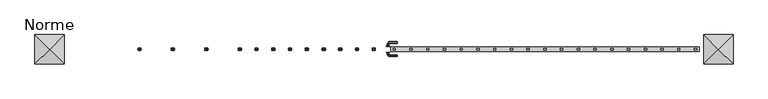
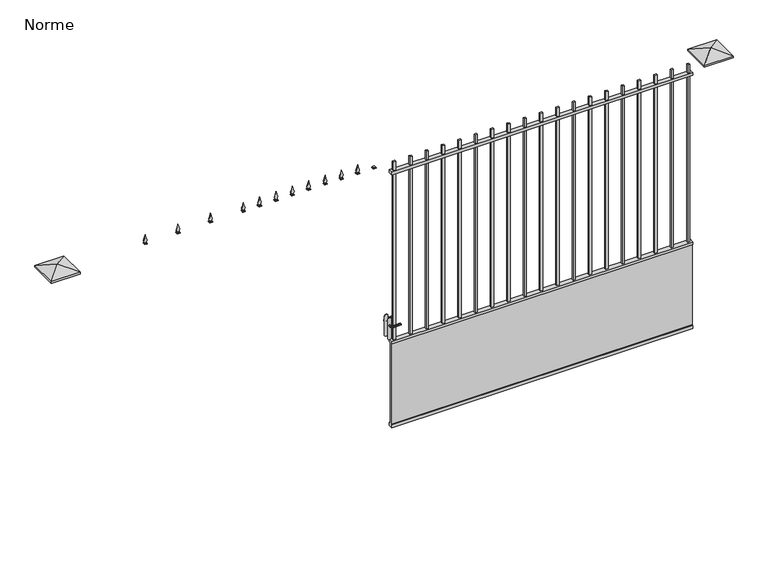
"""IFC4 building model written with IfcOpenShell, lengths in millimetres: geographic element geometry, Portail métal - Double : Norme."""

from ifc_helpers import new_model, si_unit, point, frame, frame_2d, origin, place, context, project, spatial, polyline, circle_curve, trimmed, segment, composite_curve, outline, extrude, faceted_brep, source, transform, mapped, element, save


def norme_461e92e3(model_context):
    return source(origin(), model_context, "Body", "SolidModel", [
        faceted_brep([(-130.6068511, 9.0, 2490.0), (-130.6068511, -9.0, 2490.0), (-112.6068511, -9.0, 2490.0), (-112.6068511, 9.0, 2490.0), (-133.6068511, 12.0, 2485.0), (-109.6068511, 12.0, 2485.0), (-109.6068511, -12.0, 2485.0), (-133.6068511, -12.0, 2485.0)], [[[0, 1, 2, 3]], [[4, 5, 6, 7]], [[4, 7, 1, 0]], [[7, 6, 2, 1]], [[6, 5, 3, 2]], [[5, 4, 0, 3]]]),
        extrude(outline(polyline([(-109.6068511, 12.0), (-109.6068511, -12.0), (-133.6068511, -12.0), (-133.6068511, 12.0), (-109.6068511, 12.0)])), frame((0.0, 0.0, 2480.0), z_axis=(0.0, 0.0, 1.0), x_axis=(1.0, 0.0, 0.0)), (0.0, 0.0, 1.0), 5.0),
        extrude(outline(composite_curve([segment(trimmed(circle_curve(frame_2d((2474.9252719, -359.8281669)), 87.884948), [point((2510.0, -279.24574))], [point((2490.0, -273.24574))], True, "CARTESIAN"), True, "CONTINUOUS"), segment(polyline([(2490.0, -273.24574), (2490.0, -255.24574)]), True, "CONTINUOUS"), segment(trimmed(circle_curve(frame_2d((2474.9252719, -168.663313)), 87.884948), [point((2490.0, -255.24574))], [point((2510.0, -249.24574))], True, "CARTESIAN"), True, "CONTINUOUS"), segment(trimmed(circle_curve(frame_2d((2584.2044665, -92.7308515)), 173.2143562), [point((2510.0, -249.24574))], [point((2560.0, -264.24574))], True, "CARTESIAN"), True, "CONTINUOUS"), segment(trimmed(circle_curve(frame_2d((2584.2044665, -435.7606284)), 173.2143562), [point((2560.0, -264.24574))], [point((2510.0, -279.24574))], True, "CARTESIAN"), True, "CONTINUOUS")], self_intersect=False)), frame((0.0, -1.5, 0.0), z_axis=(0.0, 1.0, 0.0), x_axis=(0.0, 0.0, 1.0)), (0.0, 0.0, 1.0), 3.0),
        faceted_brep([(-273.24574, 9.0, 2490.0), (-273.24574, -9.0, 2490.0), (-255.24574, -9.0, 2490.0), (-255.24574, 9.0, 2490.0), (-276.24574, 12.0, 2485.0), (-252.24574, 12.0, 2485.0), (-252.24574, -12.0, 2485.0), (-276.24574, -12.0, 2485.0)], [[[0, 1, 2, 3]], [[4, 5, 6, 7]], [[4, 7, 1, 0]], [[7, 6, 2, 1]], [[6, 5, 3, 2]], [[5, 4, 0, 3]]]),
        extrude(outline(polyline([(-252.24574, 12.0), (-252.24574, -12.0), (-276.24574, -12.0), (-276.24574, 12.0), (-252.24574, 12.0)])), frame((0.0, 0.0, 2480.0), z_axis=(0.0, 0.0, 1.0), x_axis=(1.0, 0.0, 0.0)), (0.0, 0.0, 1.0), 5.0),
        extrude(outline(composite_curve([segment(trimmed(circle_curve(frame_2d((2474.9252719, -502.4670558)), 87.884948), [point((2510.0, -421.8846288))], [point((2490.0, -415.8846288))], True, "CARTESIAN"), True, "CONTINUOUS"), segment(polyline([(2490.0, -415.8846288), (2490.0, -397.8846288)]), True, "CONTINUOUS"), segment(trimmed(circle_curve(frame_2d((2474.9252719, -311.3022019)), 87.884948), [point((2490.0, -397.8846288))], [point((2510.0, -391.8846288))], True, "CARTESIAN"), True, "CONTINUOUS"), segment(trimmed(circle_curve(frame_2d((2584.2044665, -235.3697403)), 173.2143562), [point((2510.0, -391.8846288))], [point((2560.0, -406.8846288))], True, "CARTESIAN"), True, "CONTINUOUS"), segment(trimmed(circle_curve(frame_2d((2584.2044665, -578.3995173)), 173.2143562), [point((2560.0, -406.8846288))], [point((2510.0, -421.8846288))], True, "CARTESIAN"), True, "CONTINUOUS")], self_intersect=False)), frame((0.0, -1.5, 0.0), z_axis=(0.0, 1.0, 0.0), x_axis=(0.0, 0.0, 1.0)), (0.0, 0.0, 1.0), 3.0),
        faceted_brep([(-415.8846288, 9.0, 2490.0), (-415.8846288, -9.0, 2490.0), (-397.8846288, -9.0, 2490.0), (-397.8846288, 9.0, 2490.0), (-418.8846288, 12.0, 2485.0), (-394.8846288, 12.0, 2485.0), (-394.8846288, -12.0, 2485.0), (-418.8846288, -12.0, 2485.0)], [[[0, 1, 2, 3]], [[4, 5, 6, 7]], [[4, 7, 1, 0]], [[7, 6, 2, 1]], [[6, 5, 3, 2]], [[5, 4, 0, 3]]]),
        extrude(outline(polyline([(-394.8846288, 12.0), (-394.8846288, -12.0), (-418.8846288, -12.0), (-418.8846288, 12.0), (-394.8846288, 12.0)])), frame((0.0, 0.0, 2480.0), z_axis=(0.0, 0.0, 1.0), x_axis=(1.0, 0.0, 0.0)), (0.0, 0.0, 1.0), 5.0),
        extrude(outline(composite_curve([segment(trimmed(circle_curve(frame_2d((2474.9252719, -643.1059446)), 87.884948), [point((2510.0, -562.5235177))], [point((2490.0, -556.5235177))], True, "CARTESIAN"), True, "CONTINUOUS"), segment(polyline([(2490.0, -556.5235177), (2490.0, -538.5235177)]), True, "CONTINUOUS"), segment(trimmed(circle_curve(frame_2d((2474.9252719, -451.9410908)), 87.884948), [point((2490.0, -538.5235177))], [point((2510.0, -532.5235177))], True, "CARTESIAN"), True, "CONTINUOUS"), segment(trimmed(circle_curve(frame_2d((2584.2044665, -376.0086292)), 173.2143562), [point((2510.0, -532.5235177))], [point((2560.0, -547.5235177))], True, "CARTESIAN"), True, "CONTINUOUS"), segment(trimmed(circle_curve(frame_2d((2584.2044665, -719.0384062)), 173.2143562), [point((2560.0, -547.5235177))], [point((2510.0, -562.5235177))], True, "CARTESIAN"), True, "CONTINUOUS")], self_intersect=False)), frame((0.0, -1.5, 0.0), z_axis=(0.0, 1.0, 0.0), x_axis=(0.0, 0.0, 1.0)), (0.0, 0.0, 1.0), 3.0),
        faceted_brep([(-556.5235177, 9.0, 2490.0), (-556.5235177, -9.0, 2490.0), (-538.5235177, -9.0, 2490.0), (-538.5235177, 9.0, 2490.0), (-559.5235177, 12.0, 2485.0), (-535.5235177, 12.0, 2485.0), (-535.5235177, -12.0, 2485.0), (-559.5235177, -12.0, 2485.0)], [[[0, 1, 2, 3]], [[4, 5, 6, 7]], [[4, 7, 1, 0]], [[7, 6, 2, 1]], [[6, 5, 3, 2]], [[5, 4, 0, 3]]]),
        extrude(outline(polyline([(-535.5235177, 12.0), (-535.5235177, -12.0), (-559.5235177, -12.0), (-559.5235177, 12.0), (-535.5235177, 12.0)])), frame((0.0, 0.0, 2480.0), z_axis=(0.0, 0.0, 1.0), x_axis=(1.0, 0.0, 0.0)), (0.0, 0.0, 1.0), 5.0),
        extrude(outline(composite_curve([segment(trimmed(circle_curve(frame_2d((2474.9252719, -787.7448335)), 87.884948), [point((2510.0, -707.1624066))], [point((2490.0, -701.1624066))], True, "CARTESIAN"), True, "CONTINUOUS"), segment(polyline([(2490.0, -701.1624066), (2490.0, -683.1624066)]), True, "CONTINUOUS"), segment(trimmed(circle_curve(frame_2d((2474.9252719, -596.5799797)), 87.884948), [point((2490.0, -683.1624066))], [point((2510.0, -677.1624066))], True, "CARTESIAN"), True, "CONTINUOUS"), segment(trimmed(circle_curve(frame_2d((2584.2044665, -520.6475181)), 173.2143562), [point((2510.0, -677.1624066))], [point((2560.0, -692.1624066))], True, "CARTESIAN"), True, "CONTINUOUS"), segment(trimmed(circle_curve(frame_2d((2584.2044665, -863.6772951)), 173.2143562), [point((2560.0, -692.1624066))], [point((2510.0, -707.1624066))], True, "CARTESIAN"), True, "CONTINUOUS")], self_intersect=False)), frame((0.0, -1.5, 0.0), z_axis=(0.0, 1.0, 0.0), x_axis=(0.0, 0.0, 1.0)), (0.0, 0.0, 1.0), 3.0),
        faceted_brep([(-701.1624066, 9.0, 2490.0), (-701.1624066, -9.0, 2490.0), (-683.1624066, -9.0, 2490.0), (-683.1624066, 9.0, 2490.0), (-704.1624066, 12.0, 2485.0), (-680.1624066, 12.0, 2485.0), (-680.1624066, -12.0, 2485.0), (-704.1624066, -12.0, 2485.0)], [[[0, 1, 2, 3]], [[4, 5, 6, 7]], [[4, 7, 1, 0]], [[7, 6, 2, 1]], [[6, 5, 3, 2]], [[5, 4, 0, 3]]]),
        extrude(outline(polyline([(-680.1624066, 12.0), (-680.1624066, -12.0), (-704.1624066, -12.0), (-704.1624066, 12.0), (-680.1624066, 12.0)])), frame((0.0, 0.0, 2480.0), z_axis=(0.0, 0.0, 1.0), x_axis=(1.0, 0.0, 0.0)), (0.0, 0.0, 1.0), 5.0),
        extrude(outline(composite_curve([segment(trimmed(circle_curve(frame_2d((2474.9252719, -930.3837224)), 87.884948), [point((2510.0, -849.8012955))], [point((2490.0, -843.8012955))], True, "CARTESIAN"), True, "CONTINUOUS"), segment(polyline([(2490.0, -843.8012955), (2490.0, -825.8012955)]), True, "CONTINUOUS"), segment(trimmed(circle_curve(frame_2d((2474.9252719, -739.2188686)), 87.884948), [point((2490.0, -825.8012955))], [point((2510.0, -819.8012955))], True, "CARTESIAN"), True, "CONTINUOUS"), segment(trimmed(circle_curve(frame_2d((2584.2044665, -663.286407)), 173.2143562), [point((2510.0, -819.8012955))], [point((2560.0, -834.8012955))], True, "CARTESIAN"), True, "CONTINUOUS"), segment(trimmed(circle_curve(frame_2d((2584.2044665, -1006.316184)), 173.2143562), [point((2560.0, -834.8012955))], [point((2510.0, -849.8012955))], True, "CARTESIAN"), True, "CONTINUOUS")], self_intersect=False)), frame((0.0, -1.5, 0.0), z_axis=(0.0, 1.0, 0.0), x_axis=(0.0, 0.0, 1.0)), (0.0, 0.0, 1.0), 3.0),
        faceted_brep([(-843.8012955, 9.0, 2490.0), (-843.8012955, -9.0, 2490.0), (-825.8012955, -9.0, 2490.0), (-825.8012955, 9.0, 2490.0), (-846.8012955, 12.0, 2485.0), (-822.8012955, 12.0, 2485.0), (-822.8012955, -12.0, 2485.0), (-846.8012955, -12.0, 2485.0)], [[[0, 1, 2, 3]], [[4, 5, 6, 7]], [[4, 7, 1, 0]], [[7, 6, 2, 1]], [[6, 5, 3, 2]], [[5, 4, 0, 3]]]),
        extrude(outline(polyline([(-822.8012955, 12.0), (-822.8012955, -12.0), (-846.8012955, -12.0), (-846.8012955, 12.0), (-822.8012955, 12.0)])), frame((0.0, 0.0, 2480.0), z_axis=(0.0, 0.0, 1.0), x_axis=(1.0, 0.0, 0.0)), (0.0, 0.0, 1.0), 5.0),
        extrude(outline(composite_curve([segment(trimmed(circle_curve(frame_2d((2474.9252719, -1073.0226113)), 87.884948), [point((2510.0, -992.4401844))], [point((2490.0, -986.4401844))], True, "CARTESIAN"), True, "CONTINUOUS"), segment(polyline([(2490.0, -986.4401844), (2490.0, -968.4401844)]), True, "CONTINUOUS"), segment(trimmed(circle_curve(frame_2d((2474.9252719, -881.8577575)), 87.884948), [point((2490.0, -968.4401844))], [point((2510.0, -962.4401844))], True, "CARTESIAN"), True, "CONTINUOUS"), segment(trimmed(circle_curve(frame_2d((2584.2044665, -805.9252959)), 173.2143562), [point((2510.0, -962.4401844))], [point((2560.0, -977.4401844))], True, "CARTESIAN"), True, "CONTINUOUS"), segment(trimmed(circle_curve(frame_2d((2584.2044665, -1148.9550729)), 173.2143562), [point((2560.0, -977.4401844))], [point((2510.0, -992.4401844))], True, "CARTESIAN"), True, "CONTINUOUS")], self_intersect=False)), frame((0.0, -1.5, 0.0), z_axis=(0.0, 1.0, 0.0), x_axis=(0.0, 0.0, 1.0)), (0.0, 0.0, 1.0), 3.0),
        faceted_brep([(-986.4401844, 9.0, 2490.0), (-986.4401844, -9.0, 2490.0), (-968.4401844, -9.0, 2490.0), (-968.4401844, 9.0, 2490.0), (-989.4401844, 12.0, 2485.0), (-965.4401844, 12.0, 2485.0), (-965.4401844, -12.0, 2485.0), (-989.4401844, -12.0, 2485.0)], [[[0, 1, 2, 3]], [[4, 5, 6, 7]], [[4, 7, 1, 0]], [[7, 6, 2, 1]], [[6, 5, 3, 2]], [[5, 4, 0, 3]]]),
        extrude(outline(polyline([(-965.4401844, 12.0), (-965.4401844, -12.0), (-989.4401844, -12.0), (-989.4401844, 12.0), (-965.4401844, 12.0)])), frame((0.0, 0.0, 2480.0), z_axis=(0.0, 0.0, 1.0), x_axis=(1.0, 0.0, 0.0)), (0.0, 0.0, 1.0), 5.0),
        extrude(outline(composite_curve([segment(trimmed(circle_curve(frame_2d((2474.9252719, -1215.6615002)), 87.884948), [point((2510.0, -1135.0790733))], [point((2490.0, -1129.0790733))], True, "CARTESIAN"), True, "CONTINUOUS"), segment(polyline([(2490.0, -1129.0790733), (2490.0, -1111.0790733)]), True, "CONTINUOUS"), segment(trimmed(circle_curve(frame_2d((2474.9252719, -1024.4966464)), 87.884948), [point((2490.0, -1111.0790733))], [point((2510.0, -1105.0790733))], True, "CARTESIAN"), True, "CONTINUOUS"), segment(trimmed(circle_curve(frame_2d((2584.2044665, -948.5641848)), 173.2143562), [point((2510.0, -1105.0790733))], [point((2560.0, -1120.0790733))], True, "CARTESIAN"), True, "CONTINUOUS"), segment(trimmed(circle_curve(frame_2d((2584.2044665, -1291.5939618)), 173.2143562), [point((2560.0, -1120.0790733))], [point((2510.0, -1135.0790733))], True, "CARTESIAN"), True, "CONTINUOUS")], self_intersect=False)), frame((0.0, -1.5, 0.0), z_axis=(0.0, 1.0, 0.0), x_axis=(0.0, 0.0, 1.0)), (0.0, 0.0, 1.0), 3.0),
        faceted_brep([(-1129.0790733, 9.0, 2490.0), (-1129.0790733, -9.0, 2490.0), (-1111.0790733, -9.0, 2490.0), (-1111.0790733, 9.0, 2490.0), (-1132.0790733, 12.0, 2485.0), (-1108.0790733, 12.0, 2485.0), (-1108.0790733, -12.0, 2485.0), (-1132.0790733, -12.0, 2485.0)], [[[0, 1, 2, 3]], [[4, 5, 6, 7]], [[4, 7, 1, 0]], [[7, 6, 2, 1]], [[6, 5, 3, 2]], [[5, 4, 0, 3]]]),
        extrude(outline(polyline([(-1108.0790733, 12.0), (-1108.0790733, -12.0), (-1132.0790733, -12.0), (-1132.0790733, 12.0), (-1108.0790733, 12.0)])), frame((0.0, 0.0, 2480.0), z_axis=(0.0, 0.0, 1.0), x_axis=(1.0, 0.0, 0.0)), (0.0, 0.0, 1.0), 5.0),
        extrude(outline(composite_curve([segment(trimmed(circle_curve(frame_2d((2474.9252719, -1358.3003891)), 87.884948), [point((2510.0, -1277.7179622))], [point((2490.0, -1271.7179622))], True, "CARTESIAN"), True, "CONTINUOUS"), segment(polyline([(2490.0, -1271.7179622), (2490.0, -1253.7179622)]), True, "CONTINUOUS"), segment(trimmed(circle_curve(frame_2d((2474.9252719, -1167.1355352)), 87.884948), [point((2490.0, -1253.7179622))], [point((2510.0, -1247.7179622))], True, "CARTESIAN"), True, "CONTINUOUS"), segment(trimmed(circle_curve(frame_2d((2584.2044665, -1091.2030737)), 173.2143562), [point((2510.0, -1247.7179622))], [point((2560.0, -1262.7179622))], True, "CARTESIAN"), True, "CONTINUOUS"), segment(trimmed(circle_curve(frame_2d((2584.2044665, -1434.2328507)), 173.2143562), [point((2560.0, -1262.7179622))], [point((2510.0, -1277.7179622))], True, "CARTESIAN"), True, "CONTINUOUS")], self_intersect=False)), frame((0.0, -1.5, 0.0), z_axis=(0.0, 1.0, 0.0), x_axis=(0.0, 0.0, 1.0)), (0.0, 0.0, 1.0), 3.0),
        faceted_brep([(-1271.7179622, 9.0, 2490.0), (-1271.7179622, -9.0, 2490.0), (-1253.7179622, -9.0, 2490.0), (-1253.7179622, 9.0, 2490.0), (-1274.7179622, 12.0, 2485.0), (-1250.7179622, 12.0, 2485.0), (-1250.7179622, -12.0, 2485.0), (-1274.7179622, -12.0, 2485.0)], [[[0, 1, 2, 3]], [[4, 5, 6, 7]], [[4, 7, 1, 0]], [[7, 6, 2, 1]], [[6, 5, 3, 2]], [[5, 4, 0, 3]]]),
        extrude(outline(polyline([(-1250.7179622, 12.0), (-1250.7179622, -12.0), (-1274.7179622, -12.0), (-1274.7179622, 12.0), (-1250.7179622, 12.0)])), frame((0.0, 0.0, 2480.0), z_axis=(0.0, 0.0, 1.0), x_axis=(1.0, 0.0, 0.0)), (0.0, 0.0, 1.0), 5.0),
        extrude(outline(composite_curve([segment(trimmed(circle_curve(frame_2d((2474.9252719, -1643.5781669)), 87.884948), [point((2510.0, -1562.99574))], [point((2490.0, -1556.99574))], True, "CARTESIAN"), True, "CONTINUOUS"), segment(polyline([(2490.0, -1556.99574), (2490.0, -1538.99574)]), True, "CONTINUOUS"), segment(trimmed(circle_curve(frame_2d((2474.9252719, -1452.413313)), 87.884948), [point((2490.0, -1538.99574))], [point((2510.0, -1532.99574))], True, "CARTESIAN"), True, "CONTINUOUS"), segment(trimmed(circle_curve(frame_2d((2584.2044665, -1376.4808515)), 173.2143562), [point((2510.0, -1532.99574))], [point((2560.0, -1547.99574))], True, "CARTESIAN"), True, "CONTINUOUS"), segment(trimmed(circle_curve(frame_2d((2584.2044665, -1719.5106284)), 173.2143562), [point((2560.0, -1547.99574))], [point((2510.0, -1562.99574))], True, "CARTESIAN"), True, "CONTINUOUS")], self_intersect=False)), frame((0.0, -1.5, 0.0), z_axis=(0.0, 1.0, 0.0), x_axis=(0.0, 0.0, 1.0)), (0.0, 0.0, 1.0), 3.0),
        faceted_brep([(-1556.99574, 9.0, 2490.0), (-1556.99574, -9.0, 2490.0), (-1538.99574, -9.0, 2490.0), (-1538.99574, 9.0, 2490.0), (-1559.99574, 12.0, 2485.0), (-1535.99574, 12.0, 2485.0), (-1535.99574, -12.0, 2485.0), (-1559.99574, -12.0, 2485.0)], [[[0, 1, 2, 3]], [[4, 5, 6, 7]], [[4, 7, 1, 0]], [[7, 6, 2, 1]], [[6, 5, 3, 2]], [[5, 4, 0, 3]]]),
        extrude(outline(polyline([(-1535.99574, 12.0), (-1535.99574, -12.0), (-1559.99574, -12.0), (-1559.99574, 12.0), (-1535.99574, 12.0)])), frame((0.0, 0.0, 2480.0), z_axis=(0.0, 0.0, 1.0), x_axis=(1.0, 0.0, 0.0)), (0.0, 0.0, 1.0), 5.0),
        extrude(outline(composite_curve([segment(trimmed(circle_curve(frame_2d((2474.9252719, -1928.8559446)), 87.884948), [point((2510.0, -1848.2735177))], [point((2490.0, -1842.2735177))], True, "CARTESIAN"), True, "CONTINUOUS"), segment(polyline([(2490.0, -1842.2735177), (2490.0, -1824.2735177)]), True, "CONTINUOUS"), segment(trimmed(circle_curve(frame_2d((2474.9252719, -1737.6910908)), 87.884948), [point((2490.0, -1824.2735177))], [point((2510.0, -1818.2735177))], True, "CARTESIAN"), True, "CONTINUOUS"), segment(trimmed(circle_curve(frame_2d((2584.2044665, -1661.7586292)), 173.2143562), [point((2510.0, -1818.2735177))], [point((2560.0, -1833.2735177))], True, "CARTESIAN"), True, "CONTINUOUS"), segment(trimmed(circle_curve(frame_2d((2584.2044665, -2004.7884062)), 173.2143562), [point((2560.0, -1833.2735177))], [point((2510.0, -1848.2735177))], True, "CARTESIAN"), True, "CONTINUOUS")], self_intersect=False)), frame((0.0, -1.5, 0.0), z_axis=(0.0, 1.0, 0.0), x_axis=(0.0, 0.0, 1.0)), (0.0, 0.0, 1.0), 3.0),
        faceted_brep([(-1842.2735177, 9.0, 2490.0), (-1842.2735177, -9.0, 2490.0), (-1824.2735177, -9.0, 2490.0), (-1824.2735177, 9.0, 2490.0), (-1845.2735177, 12.0, 2485.0), (-1821.2735177, 12.0, 2485.0), (-1821.2735177, -12.0, 2485.0), (-1845.2735177, -12.0, 2485.0)], [[[0, 1, 2, 3]], [[4, 5, 6, 7]], [[4, 7, 1, 0]], [[7, 6, 2, 1]], [[6, 5, 3, 2]], [[5, 4, 0, 3]]]),
        extrude(outline(polyline([(-1821.2735177, 12.0), (-1821.2735177, -12.0), (-1845.2735177, -12.0), (-1845.2735177, 12.0), (-1821.2735177, 12.0)])), frame((0.0, 0.0, 2480.0), z_axis=(0.0, 0.0, 1.0), x_axis=(1.0, 0.0, 0.0)), (0.0, 0.0, 1.0), 5.0),
        extrude(outline(composite_curve([segment(trimmed(circle_curve(frame_2d((2474.9252719, -2214.1337224)), 87.884948), [point((2510.0, -2133.5512955))], [point((2490.0, -2127.5512955))], True, "CARTESIAN"), True, "CONTINUOUS"), segment(polyline([(2490.0, -2127.5512955), (2490.0, -2109.5512955)]), True, "CONTINUOUS"), segment(trimmed(circle_curve(frame_2d((2474.9252719, -2022.9688686)), 87.884948), [point((2490.0, -2109.5512955))], [point((2510.0, -2103.5512955))], True, "CARTESIAN"), True, "CONTINUOUS"), segment(trimmed(circle_curve(frame_2d((2584.2044665, -1947.036407)), 173.2143562), [point((2510.0, -2103.5512955))], [point((2560.0, -2118.5512955))], True, "CARTESIAN"), True, "CONTINUOUS"), segment(trimmed(circle_curve(frame_2d((2584.2044665, -2290.066184)), 173.2143562), [point((2560.0, -2118.5512955))], [point((2510.0, -2133.5512955))], True, "CARTESIAN"), True, "CONTINUOUS")], self_intersect=False)), frame((0.0, -1.5, 0.0), z_axis=(0.0, 1.0, 0.0), x_axis=(0.0, 0.0, 1.0)), (0.0, 0.0, 1.0), 3.0),
        faceted_brep([(-2127.5512955, 9.0, 2490.0), (-2127.5512955, -9.0, 2490.0), (-2109.5512955, -9.0, 2490.0), (-2109.5512955, 9.0, 2490.0), (-2130.5512955, 12.0, 2485.0), (-2106.5512955, 12.0, 2485.0), (-2106.5512955, -12.0, 2485.0), (-2130.5512955, -12.0, 2485.0)], [[[0, 1, 2, 3]], [[4, 5, 6, 7]], [[4, 7, 1, 0]], [[7, 6, 2, 1]], [[6, 5, 3, 2]], [[5, 4, 0, 3]]]),
        extrude(outline(polyline([(-2106.5512955, 12.0), (-2106.5512955, -12.0), (-2130.5512955, -12.0), (-2130.5512955, 12.0), (-2106.5512955, 12.0)])), frame((0.0, 0.0, 2480.0), z_axis=(0.0, 0.0, 1.0), x_axis=(1.0, 0.0, 0.0)), (0.0, 0.0, 1.0), 5.0),
        faceted_brep([(2690.8931489, 125.0, 2500.0), (2940.8931489, 125.0, 2500.0), (2940.8931489, -125.0, 2500.0), (2690.8931489, -125.0, 2500.0), (2690.8931489, 125.0, 2515.0), (2940.8931489, 125.0, 2515.0), (2940.8931489, -125.0, 2515.0), (2690.8931489, -125.0, 2515.0), (2815.8931489, 0.0, 2560.0)], [[[0, 1, 2, 3]], [[0, 4, 5, 1]], [[1, 5, 6, 2]], [[2, 6, 7, 3]], [[3, 7, 4, 0]], [[4, 8, 5]], [[6, 8, 7]], [[7, 8, 4]], [[5, 8, 6]]]),
        faceted_brep([(-2759.1068511, 125.0, 2500.0), (-2759.1068511, -125.0, 2500.0), (-3009.1068511, -125.0, 2500.0), (-3009.1068511, 125.0, 2500.0), (-3009.1068511, 125.0, 2515.0), (-2759.1068511, 125.0, 2515.0), (-3009.1068511, -125.0, 2515.0), (-2759.1068511, -125.0, 2515.0), (-2884.1068511, 0.0, 2560.0)], [[[0, 1, 2, 3]], [[0, 3, 4, 5]], [[3, 2, 6, 4]], [[2, 1, 7, 6]], [[1, 0, 5, 7]], [[5, 4, 8]], [[6, 7, 8]], [[7, 5, 8]], [[4, 6, 8]]]),
        faceted_brep([(5.8931489, 28.0, 1002.9937119), (1.8931489, 28.0, 1007.0), (-4.1068511, 28.0, 1007.0), (-8.1068511, 28.0, 1002.9937119), (-8.1068511, 28.0, 997.0062881), (-4.1068511, 28.0, 993.0), (1.8931489, 28.0, 993.0), (5.8931489, 28.0, 997.0062881), (5.8931489, 45.1005051, 1002.9937119), (1.8931489, 46.7573593, 1007.0), (10.1357896, 55.0, 1007.0), (78.8931489, 55.0, 1007.0), (78.8931489, 61.0, 1007.0), (7.6505083, 61.0, 1007.0), (-4.1068511, 49.2426407, 1007.0), (-8.1068511, 50.8994949, 1002.9937119), (-8.1068511, 50.8994949, 997.0062881), (-4.1068511, 49.2426407, 993.0), (7.6505083, 61.0, 993.0), (78.8931489, 61.0, 993.0), (78.8931489, 55.0, 993.0), (10.1357896, 55.0, 993.0), (1.8931489, 46.7573593, 993.0), (5.8931489, 45.1005051, 997.0062881), (11.7926439, 51.0, 1002.9937119), (5.993654, 65.0, 1002.9937119), (5.993654, 65.0, 997.0062881), (11.7926439, 51.0, 997.0062881), (78.8931489, 51.0, 1002.9937119), (78.8931489, 51.0, 997.0062881), (78.8931489, 65.0, 997.0062881), (78.8931489, 65.0, 1002.9937119)], [[[0, 1, 2, 3, 4, 5, 6, 7]], [[1, 0, 8, 9]], [[2, 1, 9, 10, 11, 12, 13, 14]], [[3, 2, 14, 15]], [[4, 3, 15, 16]], [[5, 4, 16, 17]], [[6, 5, 17, 18, 19, 20, 21, 22]], [[7, 6, 22, 23]], [[0, 7, 23, 8]], [[9, 8, 24, 10]], [[15, 14, 13, 25]], [[16, 15, 25, 26]], [[17, 16, 26, 18]], [[23, 22, 21, 27]], [[8, 23, 27, 24]], [[28, 29, 20, 19, 30, 31, 12, 11]], [[10, 24, 28, 11]], [[25, 13, 12, 31]], [[26, 25, 31, 30]], [[18, 26, 30, 19]], [[27, 21, 20, 29]], [[24, 27, 29, 28]]]),
        faceted_brep([(1.8931489, -28.0, 1007.0), (5.8931489, -28.0, 1002.9937119), (5.8931489, -28.0, 997.0062881), (1.8931489, -28.0, 993.0), (-4.1068511, -28.0, 993.0), (-8.1068511, -28.0, 997.0062881), (-8.1068511, -28.0, 1002.9937119), (-4.1068511, -28.0, 1007.0), (1.8931489, -43.8868977, 1007.0), (5.8931489, -42.2309002, 1002.9937119), (5.8931489, -42.2309002, 997.0062881), (1.8931489, -43.8868977, 993.0), (10.0003203, -52.0, 993.0), (78.8931489, -52.0, 993.0), (78.8931489, -58.0, 993.0), (7.5137536, -58.0, 993.0), (-4.1068511, -46.370894, 993.0), (-8.1068511, -48.0268916, 997.0062881), (-8.1068511, -48.0268916, 1002.9937119), (-4.1068511, -46.370894, 1007.0), (7.5137536, -58.0, 1007.0), (78.8931489, -58.0, 1007.0), (78.8931489, -52.0, 1007.0), (10.0003203, -52.0, 1007.0), (11.6580313, -48.0, 1002.9937119), (11.6580313, -48.0, 997.0062881), (5.8560425, -62.0, 997.0062881), (5.8560425, -62.0, 1002.9937119), (78.8931489, -62.0, 1002.9937119), (78.8931489, -62.0, 997.0062881), (78.8931489, -48.0, 997.0062881), (78.8931489, -48.0, 1002.9937119)], [[[0, 1, 2, 3, 4, 5, 6, 7]], [[1, 0, 8, 9]], [[2, 1, 9, 10]], [[3, 2, 10, 11]], [[4, 3, 11, 12, 13, 14, 15, 16]], [[5, 4, 16, 17]], [[6, 5, 17, 18]], [[7, 6, 18, 19]], [[0, 7, 19, 20, 21, 22, 23, 8]], [[9, 8, 23, 24]], [[10, 9, 24, 25]], [[11, 10, 25, 12]], [[17, 16, 15, 26]], [[18, 17, 26, 27]], [[19, 18, 27, 20]], [[22, 21, 28, 29, 14, 13, 30, 31]], [[24, 23, 22, 31]], [[25, 24, 31, 30]], [[12, 25, 30, 13]], [[26, 15, 14, 29]], [[27, 26, 29, 28]], [[20, 27, 28, 21]]]),
        extrude(outline(polyline([(890.0, 13.8931489), (1050.0, 13.8931489), (1060.0, 13.8931489), (1060.0, 8.8931489), (1065.0, 8.8931489), (1070.0, 3.8931489), (1070.0, -6.1068511), (1065.0, -11.1068511), (1060.0, -11.1068511), (1060.0, -16.1068511), (1050.0, -16.1068511), (890.0, -16.1068511), (880.0, -16.1068511), (880.0, -11.1068511), (875.0, -11.1068511), (870.0, -6.1068511), (870.0, 3.8931489), (875.0, 8.8931489), (880.0, 8.8931489), (880.0, 13.8931489), (890.0, 13.8931489)])), frame((0.0, 25.0, 0.0), z_axis=(0.0, 1.0, 0.0), x_axis=(0.0, 0.0, 1.0)), (0.0, 0.0, 1.0), 3.0),
        extrude(outline(polyline([(1050.0, -16.1068511), (890.0, -16.1068511), (880.0, -16.1068511), (880.0, -11.1068511), (875.0, -11.1068511), (870.0, -6.1068511), (870.0, 3.8931489), (875.0, 8.8931489), (880.0, 8.8931489), (880.0, 13.8931489), (890.0, 13.8931489), (1050.0, 13.8931489), (1060.0, 13.8931489), (1060.0, 8.8931489), (1065.0, 8.8931489), (1070.0, 3.8931489), (1070.0, -6.1068511), (1065.0, -11.1068511), (1060.0, -11.1068511), (1060.0, -16.1068511), (1050.0, -16.1068511)])), frame((0.0, -28.0, 0.0), z_axis=(0.0, 1.0, 0.0), x_axis=(0.0, 0.0, 1.0)), (0.0, 0.0, 1.0), 3.0),
        faceted_brep([(63.3931489, -7.5, 2375.0), (63.3931489, -7.5, 838.3333333), (63.3931489, 7.5, 838.3333333), (63.3931489, 7.5, 2375.0), (63.3931489, 7.5, 2480.0), (63.3931489, -7.5, 2480.0), (63.3931489, -7.5, 2400.0), (63.3931489, 7.5, 2400.0), (43.3931489, -7.5, 2375.0), (43.3931489, -7.5, 838.3333333), (43.3931489, -7.5, 2480.0), (43.3931489, -7.5, 2400.0), (2650.8931489, -20.0, 838.3333333), (2650.8931489, 20.0, 838.3333333), (23.3931489, 20.0, 838.3333333), (23.3931489, -20.0, 838.3333333), (43.3931489, 7.5, 838.3333333), (206.0320378, 7.5, 838.3333333), (206.0320378, -7.5, 838.3333333), (186.0320378, -7.5, 838.3333333), (186.0320378, 7.5, 838.3333333), (348.6709267, 7.5, 838.3333333), (348.6709267, -7.5, 838.3333333), (328.6709267, -7.5, 838.3333333), (328.6709267, 7.5, 838.3333333), (491.3098156, 7.5, 838.3333333), (491.3098156, -7.5, 838.3333333), (471.3098156, -7.5, 838.3333333), (471.3098156, 7.5, 838.3333333), (633.9487045, 7.5, 838.3333333), (633.9487045, -7.5, 838.3333333), (613.9487045, -7.5, 838.3333333), (613.9487045, 7.5, 838.3333333), (776.5875934, 7.5, 838.3333333), (776.5875934, -7.5, 838.3333333), (756.5875934, -7.5, 838.3333333), (756.5875934, 7.5, 838.3333333), (919.2264823, 7.5, 838.3333333), (919.2264823, -7.5, 838.3333333), (899.2264823, -7.5, 838.3333333), (899.2264823, 7.5, 838.3333333), (1061.8653712, 7.5, 838.3333333), (1061.8653712, -7.5, 838.3333333), (1041.8653712, -7.5, 838.3333333), (1041.8653712, 7.5, 838.3333333), (1204.50426, 7.5, 838.3333333), (1204.50426, -7.5, 838.3333333), (1184.50426, -7.5, 838.3333333), (1184.50426, 7.5, 838.3333333), (1347.1431489, 7.5, 838.3333333), (1347.1431489, -7.5, 838.3333333), (1327.1431489, -7.5, 838.3333333), (1327.1431489, 7.5, 838.3333333), (1489.7820378, 7.5, 838.3333333), (1489.7820378, -7.5, 838.3333333), (1469.7820378, -7.5, 838.3333333), (1469.7820378, 7.5, 838.3333333), (1632.4209267, 7.5, 838.3333333), (1632.4209267, -7.5, 838.3333333), (1612.4209267, -7.5, 838.3333333), (1612.4209267, 7.5, 838.3333333), (1775.0598156, 7.5, 838.3333333), (1775.0598156, -7.5, 838.3333333), (1755.0598156, -7.5, 838.3333333), (1755.0598156, 7.5, 838.3333333), (1917.6987045, 7.5, 838.3333333), (1917.6987045, -7.5, 838.3333333), (1897.6987045, -7.5, 838.3333333), (1897.6987045, 7.5, 838.3333333), (2060.3375934, 7.5, 838.3333333), (2060.3375934, -7.5, 838.3333333), (2040.3375934, -7.5, 838.3333333), (2040.3375934, 7.5, 838.3333333), (2202.9764823, 7.5, 838.3333333), (2202.9764823, -7.5, 838.3333333), (2182.9764823, -7.5, 838.3333333), (2182.9764823, 7.5, 838.3333333), (2345.6153712, 7.5, 838.3333333), (2345.6153712, -7.5, 838.3333333), (2325.6153712, -7.5, 838.3333333), (2325.6153712, 7.5, 838.3333333), (2488.25426, 7.5, 838.3333333), (2488.25426, -7.5, 838.3333333), (2468.25426, -7.5, 838.3333333), (2468.25426, 7.5, 838.3333333), (2630.8931489, 7.5, 838.3333333), (2630.8931489, -7.5, 838.3333333), (2610.8931489, -7.5, 838.3333333), (2610.8931489, 7.5, 838.3333333), (43.3931489, 7.5, 2375.0), (43.3931489, 7.5, 2480.0), (43.3931489, 7.5, 2400.0), (2650.8931489, 20.0, 2375.0), (2650.8931489, -20.0, 2375.0), (23.3931489, -20.0, 2375.0), (23.3931489, 20.0, 2375.0), (206.0320378, -7.5, 2375.0), (206.0320378, 7.5, 2375.0), (186.0320378, 7.5, 2375.0), (186.0320378, -7.5, 2375.0), (348.6709267, -7.5, 2375.0), (348.6709267, 7.5, 2375.0), (328.6709267, 7.5, 2375.0), (328.6709267, -7.5, 2375.0), (491.3098156, -7.5, 2375.0), (491.3098156, 7.5, 2375.0), (471.3098156, 7.5, 2375.0), (471.3098156, -7.5, 2375.0), (633.9487045, -7.5, 2375.0), (633.9487045, 7.5, 2375.0), (613.9487045, 7.5, 2375.0), (613.9487045, -7.5, 2375.0), (776.5875934, -7.5, 2375.0), (776.5875934, 7.5, 2375.0), (756.5875934, 7.5, 2375.0), (756.5875934, -7.5, 2375.0), (919.2264823, -7.5, 2375.0), (919.2264823, 7.5, 2375.0), (899.2264823, 7.5, 2375.0), (899.2264823, -7.5, 2375.0), (1061.8653712, -7.5, 2375.0), (1061.8653712, 7.5, 2375.0), (1041.8653712, 7.5, 2375.0), (1041.8653712, -7.5, 2375.0), (1204.50426, -7.5, 2375.0), (1204.50426, 7.5, 2375.0), (1184.50426, 7.5, 2375.0), (1184.50426, -7.5, 2375.0), (1347.1431489, -7.5, 2375.0), (1347.1431489, 7.5, 2375.0), (1327.1431489, 7.5, 2375.0), (1327.1431489, -7.5, 2375.0), (1489.7820378, -7.5, 2375.0), (1489.7820378, 7.5, 2375.0), (1469.7820378, 7.5, 2375.0), (1469.7820378, -7.5, 2375.0), (1632.4209267, -7.5, 2375.0), (1632.4209267, 7.5, 2375.0), (1612.4209267, 7.5, 2375.0), (1612.4209267, -7.5, 2375.0), (1775.0598156, -7.5, 2375.0), (1775.0598156, 7.5, 2375.0), (1755.0598156, 7.5, 2375.0), (1755.0598156, -7.5, 2375.0), (1917.6987045, -7.5, 2375.0), (1917.6987045, 7.5, 2375.0), (1897.6987045, 7.5, 2375.0), (1897.6987045, -7.5, 2375.0), (2060.3375934, -7.5, 2375.0), (2060.3375934, 7.5, 2375.0), (2040.3375934, 7.5, 2375.0), (2040.3375934, -7.5, 2375.0), (2202.9764823, -7.5, 2375.0), (2202.9764823, 7.5, 2375.0), (2182.9764823, 7.5, 2375.0), (2182.9764823, -7.5, 2375.0), (2345.6153712, -7.5, 2375.0), (2345.6153712, 7.5, 2375.0), (2325.6153712, 7.5, 2375.0), (2325.6153712, -7.5, 2375.0), (2488.25426, -7.5, 2375.0), (2488.25426, 7.5, 2375.0), (2468.25426, 7.5, 2375.0), (2468.25426, -7.5, 2375.0), (2630.8931489, -7.5, 2375.0), (2630.8931489, 7.5, 2375.0), (2610.8931489, 7.5, 2375.0), (2610.8931489, -7.5, 2375.0), (206.0320378, 7.5, 2480.0), (206.0320378, -7.5, 2480.0), (206.0320378, -7.5, 2400.0), (206.0320378, 7.5, 2400.0), (186.0320378, -7.5, 2480.0), (186.0320378, -7.5, 2400.0), (186.0320378, 7.5, 2480.0), (186.0320378, 7.5, 2400.0), (348.6709267, 7.5, 2480.0), (348.6709267, -7.5, 2480.0), (348.6709267, -7.5, 2400.0), (348.6709267, 7.5, 2400.0), (328.6709267, -7.5, 2480.0), (328.6709267, -7.5, 2400.0), (328.6709267, 7.5, 2480.0), (328.6709267, 7.5, 2400.0), (491.3098156, 7.5, 2480.0), (491.3098156, -7.5, 2480.0), (491.3098156, -7.5, 2400.0), (491.3098156, 7.5, 2400.0), (471.3098156, -7.5, 2480.0), (471.3098156, -7.5, 2400.0), (471.3098156, 7.5, 2480.0), (471.3098156, 7.5, 2400.0), (633.9487045, 7.5, 2480.0), (633.9487045, -7.5, 2480.0), (633.9487045, -7.5, 2400.0), (633.9487045, 7.5, 2400.0), (613.9487045, -7.5, 2480.0), (613.9487045, -7.5, 2400.0), (613.9487045, 7.5, 2480.0), (613.9487045, 7.5, 2400.0), (776.5875934, 7.5, 2480.0), (776.5875934, -7.5, 2480.0), (776.5875934, -7.5, 2400.0), (776.5875934, 7.5, 2400.0), (756.5875934, -7.5, 2480.0), (756.5875934, -7.5, 2400.0), (756.5875934, 7.5, 2480.0), (756.5875934, 7.5, 2400.0), (919.2264823, 7.5, 2480.0), (919.2264823, -7.5, 2480.0), (919.2264823, -7.5, 2400.0), (919.2264823, 7.5, 2400.0), (899.2264823, -7.5, 2480.0), (899.2264823, -7.5, 2400.0), (899.2264823, 7.5, 2480.0), (899.2264823, 7.5, 2400.0), (1061.8653712, 7.5, 2480.0), (1061.8653712, -7.5, 2480.0), (1061.8653712, -7.5, 2400.0), (1061.8653712, 7.5, 2400.0), (1041.8653712, -7.5, 2480.0), (1041.8653712, -7.5, 2400.0), (1041.8653712, 7.5, 2480.0), (1041.8653712, 7.5, 2400.0), (1204.50426, 7.5, 2480.0), (1204.50426, -7.5, 2480.0), (1204.50426, -7.5, 2400.0), (1204.50426, 7.5, 2400.0), (1184.50426, -7.5, 2480.0), (1184.50426, -7.5, 2400.0), (1184.50426, 7.5, 2480.0), (1184.50426, 7.5, 2400.0), (1347.1431489, 7.5, 2480.0), (1347.1431489, -7.5, 2480.0), (1347.1431489, -7.5, 2400.0), (1347.1431489, 7.5, 2400.0), (1327.1431489, -7.5, 2480.0), (1327.1431489, -7.5, 2400.0), (1327.1431489, 7.5, 2480.0), (1327.1431489, 7.5, 2400.0), (1489.7820378, 7.5, 2480.0), (1489.7820378, -7.5, 2480.0), (1489.7820378, -7.5, 2400.0), (1489.7820378, 7.5, 2400.0), (1469.7820378, -7.5, 2480.0), (1469.7820378, -7.5, 2400.0), (1469.7820378, 7.5, 2480.0), (1469.7820378, 7.5, 2400.0), (1632.4209267, 7.5, 2480.0), (1632.4209267, -7.5, 2480.0), (1632.4209267, -7.5, 2400.0), (1632.4209267, 7.5, 2400.0), (1612.4209267, -7.5, 2480.0), (1612.4209267, -7.5, 2400.0), (1612.4209267, 7.5, 2480.0), (1612.4209267, 7.5, 2400.0), (1775.0598156, 7.5, 2480.0), (1775.0598156, -7.5, 2480.0), (1775.0598156, -7.5, 2400.0), (1775.0598156, 7.5, 2400.0), (1755.0598156, -7.5, 2480.0), (1755.0598156, -7.5, 2400.0), (1755.0598156, 7.5, 2480.0), (1755.0598156, 7.5, 2400.0), (1917.6987045, 7.5, 2480.0), (1917.6987045, -7.5, 2480.0), (1917.6987045, -7.5, 2400.0), (1917.6987045, 7.5, 2400.0), (1897.6987045, -7.5, 2480.0), (1897.6987045, -7.5, 2400.0), (1897.6987045, 7.5, 2480.0), (1897.6987045, 7.5, 2400.0), (2060.3375934, 7.5, 2480.0), (2060.3375934, -7.5, 2480.0), (2060.3375934, -7.5, 2400.0), (2060.3375934, 7.5, 2400.0), (2040.3375934, -7.5, 2480.0), (2040.3375934, -7.5, 2400.0), (2040.3375934, 7.5, 2480.0), (2040.3375934, 7.5, 2400.0), (2202.9764823, 7.5, 2480.0), (2202.9764823, -7.5, 2480.0), (2202.9764823, -7.5, 2400.0), (2202.9764823, 7.5, 2400.0), (2182.9764823, -7.5, 2480.0), (2182.9764823, -7.5, 2400.0), (2182.9764823, 7.5, 2480.0), (2182.9764823, 7.5, 2400.0), (2345.6153712, 7.5, 2480.0), (2345.6153712, -7.5, 2480.0), (2345.6153712, -7.5, 2400.0), (2345.6153712, 7.5, 2400.0), (2325.6153712, -7.5, 2480.0), (2325.6153712, -7.5, 2400.0), (2325.6153712, 7.5, 2480.0), (2325.6153712, 7.5, 2400.0), (2488.25426, 7.5, 2480.0), (2488.25426, -7.5, 2480.0), (2488.25426, -7.5, 2400.0), (2488.25426, 7.5, 2400.0), (2468.25426, -7.5, 2480.0), (2468.25426, -7.5, 2400.0), (2468.25426, 7.5, 2480.0), (2468.25426, 7.5, 2400.0), (2630.8931489, 7.5, 2480.0), (2630.8931489, -7.5, 2480.0), (2630.8931489, -7.5, 2400.0), (2630.8931489, 7.5, 2400.0), (2610.8931489, -7.5, 2480.0), (2610.8931489, -7.5, 2400.0), (2610.8931489, 7.5, 2480.0), (2610.8931489, 7.5, 2400.0), (2650.8931489, -20.0, 813.3333333), (2650.8931489, -7.5, 813.3333333), (2650.8931489, -7.5, 65.0), (2650.8931489, -20.0, 65.0), (2650.8931489, -20.0, 40.0), (2650.8931489, 20.0, 40.0), (2650.8931489, 20.0, 65.0), (2650.8931489, 7.5, 65.0), (2650.8931489, 7.5, 813.3333333), (2650.8931489, 20.0, 813.3333333), (2650.8931489, 20.0, 2400.0), (2650.8931489, -20.0, 2400.0), (23.3931489, -20.0, 813.3333333), (23.3931489, -7.5, 813.3333333), (23.3931489, -7.5, 65.0), (23.3931489, -20.0, 65.0), (23.3931489, -20.0, 40.0), (23.3931489, 20.0, 40.0), (23.3931489, 20.0, 65.0), (23.3931489, 7.5, 65.0), (23.3931489, 7.5, 813.3333333), (23.3931489, 20.0, 813.3333333), (23.3931489, 20.0, 2400.0), (23.3931489, -20.0, 2400.0)], [[[0, 1, 2, 3]], [[4, 5, 6, 7]], [[1, 0, 8, 9]], [[5, 10, 11, 6]], [[12, 13, 14, 15], [2, 1, 9, 16], [17, 18, 19, 20], [21, 22, 23, 24], [25, 26, 27, 28], [29, 30, 31, 32], [33, 34, 35, 36], [37, 38, 39, 40], [41, 42, 43, 44], [45, 46, 47, 48], [49, 50, 51, 52], [53, 54, 55, 56], [57, 58, 59, 60], [61, 62, 63, 64], [65, 66, 67, 68], [69, 70, 71, 72], [73, 74, 75, 76], [77, 78, 79, 80], [81, 82, 83, 84], [85, 86, 87, 88]], [[3, 2, 16, 89]], [[90, 4, 7, 91]], [[92, 93, 94, 95], [0, 3, 89, 8], [96, 97, 98, 99], [100, 101, 102, 103], [104, 105, 106, 107], [108, 109, 110, 111], [112, 113, 114, 115], [116, 117, 118, 119], [120, 121, 122, 123], [124, 125, 126, 127], [128, 129, 130, 131], [132, 133, 134, 135], [136, 137, 138, 139], [140, 141, 142, 143], [144, 145, 146, 147], [148, 149, 150, 151], [152, 153, 154, 155], [156, 157, 158, 159], [160, 161, 162, 163], [164, 165, 166, 167]], [[89, 16, 9, 8]], [[10, 90, 91, 11]], [[96, 18, 17, 97]], [[168, 169, 170, 171]], [[18, 96, 99, 19]], [[169, 172, 173, 170]], [[97, 17, 20, 98]], [[174, 168, 171, 175]], [[98, 20, 19, 99]], [[172, 174, 175, 173]], [[100, 22, 21, 101]], [[176, 177, 178, 179]], [[22, 100, 103, 23]], [[177, 180, 181, 178]], [[101, 21, 24, 102]], [[182, 176, 179, 183]], [[102, 24, 23, 103]], [[180, 182, 183, 181]], [[104, 26, 25, 105]], [[184, 185, 186, 187]], [[26, 104, 107, 27]], [[185, 188, 189, 186]], [[105, 25, 28, 106]], [[190, 184, 187, 191]], [[106, 28, 27, 107]], [[188, 190, 191, 189]], [[108, 30, 29, 109]], [[192, 193, 194, 195]], [[30, 108, 111, 31]], [[193, 196, 197, 194]], [[109, 29, 32, 110]], [[198, 192, 195, 199]], [[110, 32, 31, 111]], [[196, 198, 199, 197]], [[112, 34, 33, 113]], [[200, 201, 202, 203]], [[34, 112, 115, 35]], [[201, 204, 205, 202]], [[113, 33, 36, 114]], [[206, 200, 203, 207]], [[114, 36, 35, 115]], [[204, 206, 207, 205]], [[116, 38, 37, 117]], [[208, 209, 210, 211]], [[38, 116, 119, 39]], [[209, 212, 213, 210]], [[117, 37, 40, 118]], [[214, 208, 211, 215]], [[118, 40, 39, 119]], [[212, 214, 215, 213]], [[120, 42, 41, 121]], [[216, 217, 218, 219]], [[42, 120, 123, 43]], [[217, 220, 221, 218]], [[121, 41, 44, 122]], [[222, 216, 219, 223]], [[122, 44, 43, 123]], [[220, 222, 223, 221]], [[124, 46, 45, 125]], [[224, 225, 226, 227]], [[46, 124, 127, 47]], [[225, 228, 229, 226]], [[125, 45, 48, 126]], [[230, 224, 227, 231]], [[126, 48, 47, 127]], [[228, 230, 231, 229]], [[128, 50, 49, 129]], [[232, 233, 234, 235]], [[50, 128, 131, 51]], [[233, 236, 237, 234]], [[129, 49, 52, 130]], [[238, 232, 235, 239]], [[130, 52, 51, 131]], [[236, 238, 239, 237]], [[132, 54, 53, 133]], [[240, 241, 242, 243]], [[54, 132, 135, 55]], [[241, 244, 245, 242]], [[133, 53, 56, 134]], [[246, 240, 243, 247]], [[134, 56, 55, 135]], [[244, 246, 247, 245]], [[136, 58, 57, 137]], [[248, 249, 250, 251]], [[58, 136, 139, 59]], [[249, 252, 253, 250]], [[137, 57, 60, 138]], [[254, 248, 251, 255]], [[138, 60, 59, 139]], [[252, 254, 255, 253]], [[140, 62, 61, 141]], [[256, 257, 258, 259]], [[62, 140, 143, 63]], [[257, 260, 261, 258]], [[141, 61, 64, 142]], [[262, 256, 259, 263]], [[142, 64, 63, 143]], [[260, 262, 263, 261]], [[144, 66, 65, 145]], [[264, 265, 266, 267]], [[66, 144, 147, 67]], [[265, 268, 269, 266]], [[145, 65, 68, 146]], [[270, 264, 267, 271]], [[146, 68, 67, 147]], [[268, 270, 271, 269]], [[148, 70, 69, 149]], [[272, 273, 274, 275]], [[70, 148, 151, 71]], [[273, 276, 277, 274]], [[149, 69, 72, 150]], [[278, 272, 275, 279]], [[150, 72, 71, 151]], [[276, 278, 279, 277]], [[152, 74, 73, 153]], [[280, 281, 282, 283]], [[74, 152, 155, 75]], [[281, 284, 285, 282]], [[153, 73, 76, 154]], [[286, 280, 283, 287]], [[154, 76, 75, 155]], [[284, 286, 287, 285]], [[156, 78, 77, 157]], [[288, 289, 290, 291]], [[78, 156, 159, 79]], [[289, 292, 293, 290]], [[157, 77, 80, 158]], [[294, 288, 291, 295]], [[158, 80, 79, 159]], [[292, 294, 295, 293]], [[160, 82, 81, 161]], [[296, 297, 298, 299]], [[82, 160, 163, 83]], [[297, 300, 301, 298]], [[161, 81, 84, 162]], [[302, 296, 299, 303]], [[162, 84, 83, 163]], [[300, 302, 303, 301]], [[164, 86, 85, 165]], [[304, 305, 306, 307]], [[86, 164, 167, 87]], [[305, 308, 309, 306]], [[165, 85, 88, 166]], [[310, 304, 307, 311]], [[166, 88, 87, 167]], [[308, 310, 311, 309]], [[312, 313, 314, 315, 316, 317, 318, 319, 320, 321, 13, 12]], [[92, 322, 323, 93]], [[313, 312, 324, 325]], [[314, 313, 325, 326]], [[315, 314, 326, 327]], [[316, 315, 327, 328]], [[317, 316, 328, 329]], [[318, 317, 329, 330]], [[319, 318, 330, 331]], [[320, 319, 331, 332]], [[321, 320, 332, 333]], [[13, 321, 333, 14]], [[312, 12, 15, 324]], [[322, 92, 95, 334]], [[93, 323, 335, 94]], [[95, 94, 335, 334]], [[324, 15, 14, 333, 332, 331, 330, 329, 328, 327, 326, 325]], [[5, 4, 90, 10]], [[169, 168, 174, 172]], [[177, 176, 182, 180]], [[185, 184, 190, 188]], [[193, 192, 198, 196]], [[201, 200, 206, 204]], [[209, 208, 214, 212]], [[217, 216, 222, 220]], [[225, 224, 230, 228]], [[233, 232, 238, 236]], [[241, 240, 246, 244]], [[249, 248, 254, 252]], [[257, 256, 262, 260]], [[265, 264, 270, 268]], [[273, 272, 278, 276]], [[281, 280, 286, 284]], [[289, 288, 294, 292]], [[297, 296, 302, 300]], [[305, 304, 310, 308]], [[323, 322, 334, 335], [7, 6, 11, 91], [171, 170, 173, 175], [179, 178, 181, 183], [187, 186, 189, 191], [195, 194, 197, 199], [203, 202, 205, 207], [211, 210, 213, 215], [219, 218, 221, 223], [227, 226, 229, 231], [235, 234, 237, 239], [243, 242, 245, 247], [251, 250, 253, 255], [259, 258, 261, 263], [267, 266, 269, 271], [275, 274, 277, 279], [283, 282, 285, 287], [291, 290, 293, 295], [299, 298, 301, 303], [307, 306, 309, 311]]]),
    ])


if __name__ == "__main__":
    model = new_model("IFC4")
    model_context = context("Model", 3, world=origin())
    ifc_project = project(units=[si_unit("LENGTHUNIT", "METRE", prefix="MILLI")], contexts=[model_context])
    site = spatial("IfcSite", under=ifc_project)
    building = spatial("IfcBuilding", under=site)
    placement = place(None, origin())
    norme_shape = norme_461e92e3(model_context)
    element("IfcGeographicElement", 1, ObjectType="Portail métal - Double : Norme", at=placement, inside=building, context=model_context, shape_type="MappedRepresentation", body=[
        mapped(norme_shape, transform((0.0, 0.0, 0.0), x_axis=(1.0, 0.0, 0.0), y_axis=(0.0, 1.0, 0.0), z_axis=(0.0, 0.0, 1.0))),
    ])
    save(model, "model.ifc")
